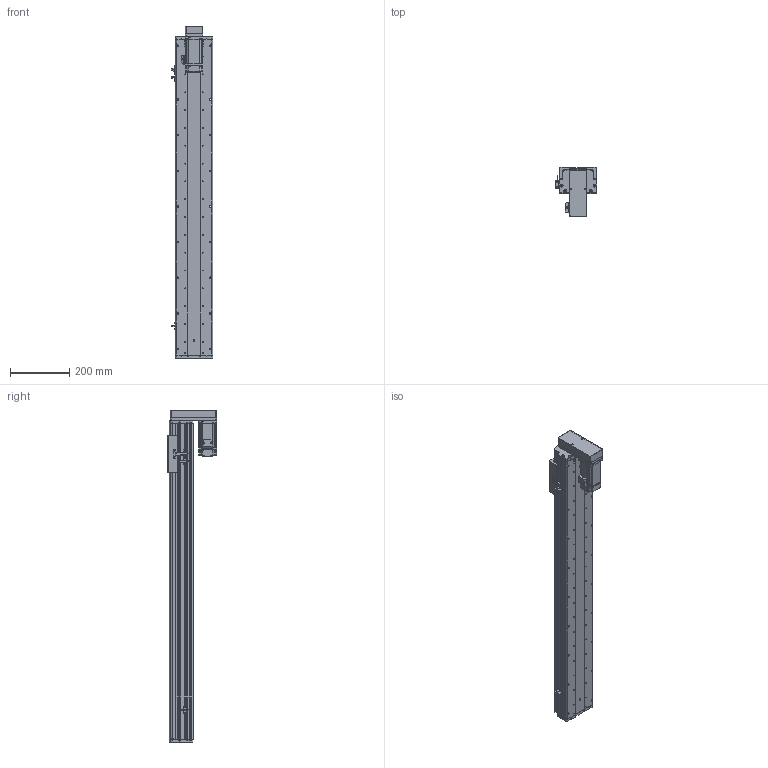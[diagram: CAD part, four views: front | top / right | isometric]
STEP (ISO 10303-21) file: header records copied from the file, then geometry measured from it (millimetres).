
FILE_DESCRIPTION (( 'STEP AP214' ), '1' );
FILE_NAME ('KSD125S-S850-MD-CM.STEP', '2017-10-21T08:13:44', ( '微软用户' ), ( '微软中国' ), 'SwSTEP 2.0', 'SolidWorks 2014', '' );
FILE_SCHEMA (( 'AUTOMOTIVE_DESIGN' ));
Length unit declared in the file: millimetre
Products named in the file (16): 125遵悵誘欶奻狟殏; 125宽马达安装板连板上下折丝杆同步带; HTPA30S3M150_A_H6_a佪裝蚚; HTPA30S3M150_A_H6_a萇儂蚚; KSD125S-850俴最佪裝滅鳥裔; KSD125S-850俴最佪裝菁啣; KSD125-賑雄釱1; MHMD042G1CA_2_03; 拸萇儂釱滅袉菜; 拸萇儂釱滅袉菜-1; 覜茼え68遵圉猾敕; U倰嫖萇假蚾璃; U倰嫖萇EEㄜSX672; ヶ傷啣-125遵耀郪; 125-帣傷啣1; KSD125S-S850-MD-CM
Assembly tree (19 placements, depth 2):
  KSD125S-S850-MD-CM
    125-帣傷啣1
    ヶ傷啣-125遵耀郪
    U倰嫖萇EEㄜSX672  x3
    U倰嫖萇假蚾璃  x3
    覜茼え68遵圉猾敕
    拸萇儂釱滅袉菜-1
    拸萇儂釱滅袉菜
    MHMD042G1CA_2_03
    KSD125-賑雄釱1
    KSD125S-850俴最佪裝菁啣
    KSD125S-850俴最佪裝滅鳥裔
    HTPA30S3M150_A_H6_a萇儂蚚
    HTPA30S3M150_A_H6_a佪裝蚚
    125宽马达安装板连板上下折丝杆同步带
    125遵悵誘欶奻狟殏
Bounding box: 138.7 x 165 x 1117.5 mm (x, y, z)
Volume: 3549408.8 mm3; surface area: 1199643.7 mm2
Topology: 18 solids, 21 shells, 2237 faces, 6489 edges, 4281 vertices
Faces by surface type: cylinder 1410, plane 686, cone 119, bspline 22
Entity records: 80357 total; most frequent: CARTESIAN_POINT 16051, DIRECTION 12343, ORIENTED_EDGE 11486, EDGE_CURVE 5821, AXIS2_PLACEMENT_3D 4779, VERTEX_POINT 3873, LINE 2785, VECTOR 2785
